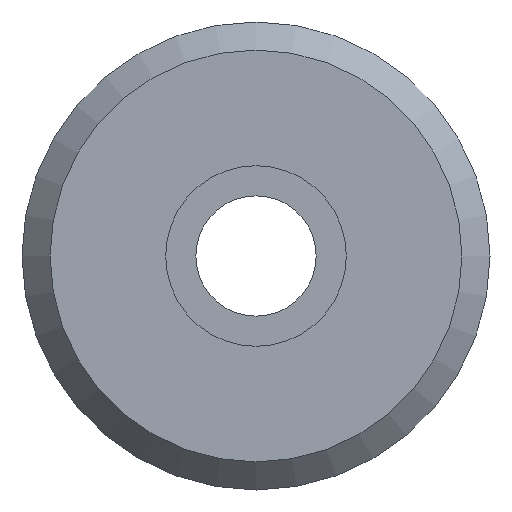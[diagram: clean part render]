
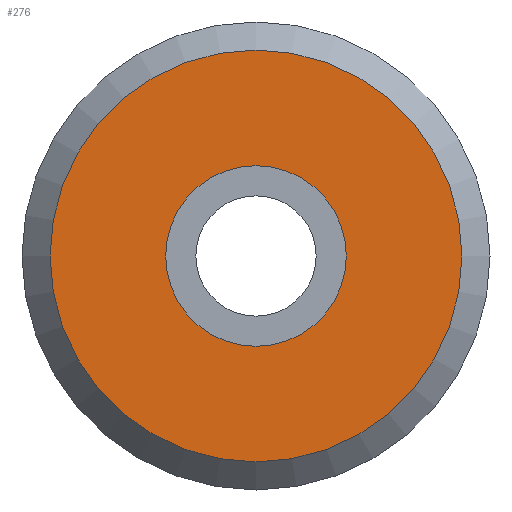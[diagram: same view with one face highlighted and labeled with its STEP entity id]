
A CAD part, left-side view. The second image highlights one B-rep face of the part: STEP entity #276.
In plain terms, the highlighted planar face has unit normal (-1, 0, 0).
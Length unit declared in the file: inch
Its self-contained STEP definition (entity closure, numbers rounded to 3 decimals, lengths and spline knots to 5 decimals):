
#31=FACE_BOUND('',#74,.T.);
#38=PLANE('',#326);
#54=FACE_OUTER_BOUND('',#73,.T.);
#73=EDGE_LOOP('',(#211));
#74=EDGE_LOOP('',(#212));
#113=CIRCLE('',#321,0.44);
#117=CIRCLE('',#327,0.193);
#141=VERTEX_POINT('',#485);
#145=VERTEX_POINT('',#497);
#165=EDGE_CURVE('',#141,#141,#113,.T.);
#171=EDGE_CURVE('',#145,#145,#117,.T.);
#211=ORIENTED_EDGE('',*,*,#165,.F.);
#212=ORIENTED_EDGE('',*,*,#171,.F.);
#276=ADVANCED_FACE('',(#54,#31),#38,.T.);
#321=AXIS2_PLACEMENT_3D('',#486,#376,#377);
#326=AXIS2_PLACEMENT_3D('',#496,#388,#389);
#327=AXIS2_PLACEMENT_3D('',#498,#390,#391);
#376=DIRECTION('center_axis',(1.,0.,0.));
#377=DIRECTION('ref_axis',(0.,0.,-1.));
#388=DIRECTION('center_axis',(-1.,0.,0.));
#389=DIRECTION('ref_axis',(0.,0.,1.));
#390=DIRECTION('center_axis',(-1.,0.,0.));
#391=DIRECTION('ref_axis',(0.,0.,1.));
#485=CARTESIAN_POINT('',(0.,0.,0.44));
#486=CARTESIAN_POINT('Origin',(0.,0.,0.));
#496=CARTESIAN_POINT('Origin',(0.,0.,0.193));
#497=CARTESIAN_POINT('',(0.,0.,-0.193));
#498=CARTESIAN_POINT('Origin',(0.,0.,0.));
